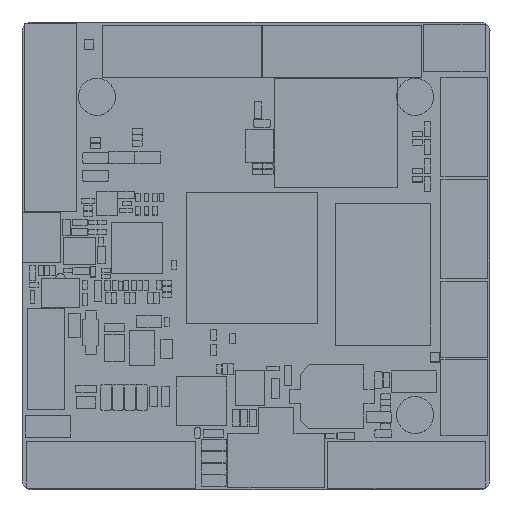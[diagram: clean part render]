
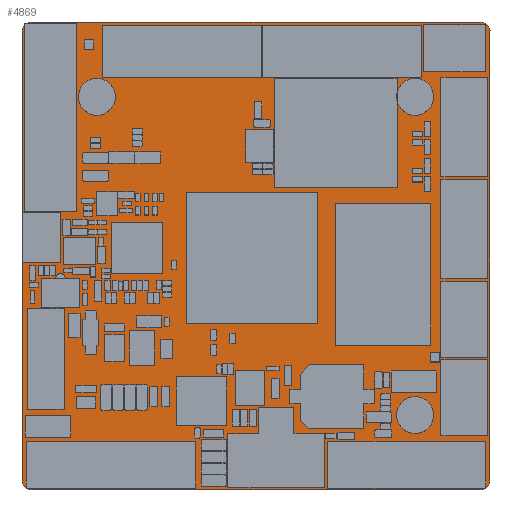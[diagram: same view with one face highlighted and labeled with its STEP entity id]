
A CAD part, top view. The second image highlights one B-rep face of the part: STEP entity #4869.
In plain terms, the highlighted planar face has unit normal (0, 0, 1).
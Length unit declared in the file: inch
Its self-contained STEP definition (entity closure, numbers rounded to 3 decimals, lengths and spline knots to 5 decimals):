
#3587=FACE_OUTER_BOUND($,#4025,.F.);
#3597=FACE_OUTER_BOUND($,#4035,.T.);
#3607=FACE_OUTER_BOUND($,#4045,.T.);
#3611=FACE_OUTER_BOUND($,#4049,.T.);
#4025=EDGE_LOOP($,(#8559,#8560,#8561,#8562,#8563,#8564,#8565,#8566));
#4035=EDGE_LOOP($,(#8607,#8608,#8609,#8610,#8611,#8612,#8613,#8614));
#4045=EDGE_LOOP($,(#8655,#8656));
#4049=EDGE_LOOP($,(#8667,#8668));
#4463=PLANE($,#7231);
#4869=ADVANCED_FACE($,(#3587,#3597,#3607,#3611),#4463,.T.);
#5301=VECTOR($,#13021,1.8885);
#5302=VECTOR($,#13022,1.8885);
#5303=VECTOR($,#13023,1.8885);
#5304=VECTOR($,#13024,1.8885);
#5318=VECTOR($,#13042,1.8885);
#5319=VECTOR($,#13043,1.8885);
#5320=VECTOR($,#13044,1.8885);
#5321=VECTOR($,#13045,1.8885);
#6238=LINE($,#15086,#5301);
#6239=LINE($,#15088,#5302);
#6240=LINE($,#15090,#5303);
#6241=LINE($,#15092,#5304);
#6255=LINE($,#15115,#5318);
#6256=LINE($,#15117,#5319);
#6257=LINE($,#15119,#5320);
#6258=LINE($,#15121,#5321);
#7175=CIRCLE($,#7227,0.04);
#7176=CIRCLE($,#7228,0.04);
#7177=CIRCLE($,#7229,0.04);
#7178=CIRCLE($,#7230,0.04);
#7183=CIRCLE($,#7245,0.04);
#7184=CIRCLE($,#7246,0.04);
#7185=CIRCLE($,#7247,0.04);
#7186=CIRCLE($,#7248,0.04);
#7191=CIRCLE($,#7261,0.01969);
#7192=CIRCLE($,#7262,0.01969);
#7195=CIRCLE($,#7267,0.01969);
#7196=CIRCLE($,#7268,0.01969);
#7227=AXIS2_PLACEMENT_3D($,#15094,#13018,$);
#7228=AXIS2_PLACEMENT_3D($,#15095,#13018,$);
#7229=AXIS2_PLACEMENT_3D($,#15096,#13018,$);
#7230=AXIS2_PLACEMENT_3D($,#15097,#13018,$);
#7231=AXIS2_PLACEMENT_3D($,#15086,#13018,$);
#7245=AXIS2_PLACEMENT_3D($,#15124,#13018,$);
#7246=AXIS2_PLACEMENT_3D($,#15125,#13018,$);
#7247=AXIS2_PLACEMENT_3D($,#15126,#13018,$);
#7248=AXIS2_PLACEMENT_3D($,#15127,#13018,$);
#7261=AXIS2_PLACEMENT_3D($,#15148,#13018,$);
#7262=AXIS2_PLACEMENT_3D($,#15149,#13018,$);
#7267=AXIS2_PLACEMENT_3D($,#15160,#13018,$);
#7268=AXIS2_PLACEMENT_3D($,#15161,#13018,$);
#8559=ORIENTED_EDGE($,*,*,#10407,.T.);
#8560=ORIENTED_EDGE($,*,*,#10408,.T.);
#8561=ORIENTED_EDGE($,*,*,#10409,.T.);
#8562=ORIENTED_EDGE($,*,*,#10410,.T.);
#8563=ORIENTED_EDGE($,*,*,#10411,.T.);
#8564=ORIENTED_EDGE($,*,*,#10412,.T.);
#8565=ORIENTED_EDGE($,*,*,#10413,.T.);
#8566=ORIENTED_EDGE($,*,*,#10414,.T.);
#8607=ORIENTED_EDGE($,*,*,#10432,.T.);
#8608=ORIENTED_EDGE($,*,*,#10433,.T.);
#8609=ORIENTED_EDGE($,*,*,#10434,.T.);
#8610=ORIENTED_EDGE($,*,*,#10435,.T.);
#8611=ORIENTED_EDGE($,*,*,#10436,.T.);
#8612=ORIENTED_EDGE($,*,*,#10437,.T.);
#8613=ORIENTED_EDGE($,*,*,#10438,.T.);
#8614=ORIENTED_EDGE($,*,*,#10439,.T.);
#8655=ORIENTED_EDGE($,*,*,#10457,.T.);
#8656=ORIENTED_EDGE($,*,*,#10458,.T.);
#8667=ORIENTED_EDGE($,*,*,#10464,.T.);
#8668=ORIENTED_EDGE($,*,*,#10465,.T.);
#10407=EDGE_CURVE($,#11396,#11397,#7175,.F.);
#10408=EDGE_CURVE($,#11397,#11398,#6238,.T.);
#10409=EDGE_CURVE($,#11398,#11399,#7176,.F.);
#10410=EDGE_CURVE($,#11399,#11400,#6239,.T.);
#10411=EDGE_CURVE($,#11400,#11401,#7177,.F.);
#10412=EDGE_CURVE($,#11401,#11402,#6240,.T.);
#10413=EDGE_CURVE($,#11402,#11403,#7178,.F.);
#10414=EDGE_CURVE($,#11403,#11396,#6241,.T.);
#10432=EDGE_CURVE($,#11414,#11415,#6255,.T.);
#10433=EDGE_CURVE($,#11415,#11416,#7183,.F.);
#10434=EDGE_CURVE($,#11416,#11417,#6256,.T.);
#10435=EDGE_CURVE($,#11417,#11418,#7184,.F.);
#10436=EDGE_CURVE($,#11418,#11419,#6257,.T.);
#10437=EDGE_CURVE($,#11419,#11420,#7185,.F.);
#10438=EDGE_CURVE($,#11420,#11421,#6258,.T.);
#10439=EDGE_CURVE($,#11421,#11414,#7186,.F.);
#10457=EDGE_CURVE($,#11432,#11433,#7191,.F.);
#10458=EDGE_CURVE($,#11433,#11432,#7192,.F.);
#10464=EDGE_CURVE($,#11438,#11439,#7195,.F.);
#10465=EDGE_CURVE($,#11439,#11438,#7196,.F.);
#11396=VERTEX_POINT($,#15085);
#11397=VERTEX_POINT($,#15086);
#11398=VERTEX_POINT($,#15087);
#11399=VERTEX_POINT($,#15088);
#11400=VERTEX_POINT($,#15089);
#11401=VERTEX_POINT($,#15090);
#11402=VERTEX_POINT($,#15091);
#11403=VERTEX_POINT($,#15092);
#11414=VERTEX_POINT($,#15115);
#11415=VERTEX_POINT($,#15116);
#11416=VERTEX_POINT($,#15117);
#11417=VERTEX_POINT($,#15118);
#11418=VERTEX_POINT($,#15119);
#11419=VERTEX_POINT($,#15120);
#11420=VERTEX_POINT($,#15121);
#11421=VERTEX_POINT($,#15122);
#11432=VERTEX_POINT($,#15145);
#11433=VERTEX_POINT($,#15146);
#11438=VERTEX_POINT($,#15157);
#11439=VERTEX_POINT($,#15158);
#13018=DIRECTION($,(0.,0.,1.));
#13021=DIRECTION($,(0.,1.,0.));
#13022=DIRECTION($,(1.,0.,0.));
#13023=DIRECTION($,(0.,-1.,0.));
#13024=DIRECTION($,(-1.,0.,0.));
#13042=DIRECTION($,(1.,0.,0.));
#13043=DIRECTION($,(0.,-1.,0.));
#13044=DIRECTION($,(-1.,0.,0.));
#13045=DIRECTION($,(0.,1.,0.));
#15085=CARTESIAN_POINT('',(-0.92918,-0.97729,0.));
#15086=CARTESIAN_POINT('',(-0.96918,-0.93729,0.));
#15087=CARTESIAN_POINT('',(-0.96918,0.95121,0.));
#15088=CARTESIAN_POINT('',(-0.92918,0.99121,0.));
#15089=CARTESIAN_POINT('',(0.95932,0.99121,0.));
#15090=CARTESIAN_POINT('',(0.99932,0.95121,0.));
#15091=CARTESIAN_POINT('',(0.99932,-0.93729,0.));
#15092=CARTESIAN_POINT('',(0.95932,-0.97729,0.));
#15094=CARTESIAN_POINT('',(-0.92918,-0.93729,0.));
#15095=CARTESIAN_POINT('',(-0.92918,0.95121,0.));
#15096=CARTESIAN_POINT('',(0.95932,0.95121,0.));
#15097=CARTESIAN_POINT('',(0.95932,-0.93729,0.));
#15115=CARTESIAN_POINT('',(-0.92918,0.99121,0.));
#15116=CARTESIAN_POINT('',(0.95932,0.99121,0.));
#15117=CARTESIAN_POINT('',(0.99932,0.95121,0.));
#15118=CARTESIAN_POINT('',(0.99932,-0.93729,0.));
#15119=CARTESIAN_POINT('',(0.95932,-0.97729,0.));
#15120=CARTESIAN_POINT('',(-0.92918,-0.97729,0.));
#15121=CARTESIAN_POINT('',(-0.96918,-0.93729,0.));
#15122=CARTESIAN_POINT('',(-0.96918,0.95121,0.));
#15124=CARTESIAN_POINT('',(0.95932,0.95121,0.));
#15125=CARTESIAN_POINT('',(0.95932,-0.93729,0.));
#15126=CARTESIAN_POINT('',(-0.92918,-0.93729,0.));
#15127=CARTESIAN_POINT('',(-0.92918,0.95121,0.));
#15145=CARTESIAN_POINT('',(-0.78766,-0.08709,0.));
#15146=CARTESIAN_POINT('',(-0.82703,-0.08709,0.));
#15148=CARTESIAN_POINT('',(-0.80734,-0.08709,0.));
#15149=CARTESIAN_POINT('',(-0.80734,-0.08709,0.));
#15157=CARTESIAN_POINT('',(-0.78766,0.22709,0.));
#15158=CARTESIAN_POINT('',(-0.82703,0.22709,0.));
#15160=CARTESIAN_POINT('',(-0.80734,0.22709,0.));
#15161=CARTESIAN_POINT('',(-0.80734,0.22709,0.));
